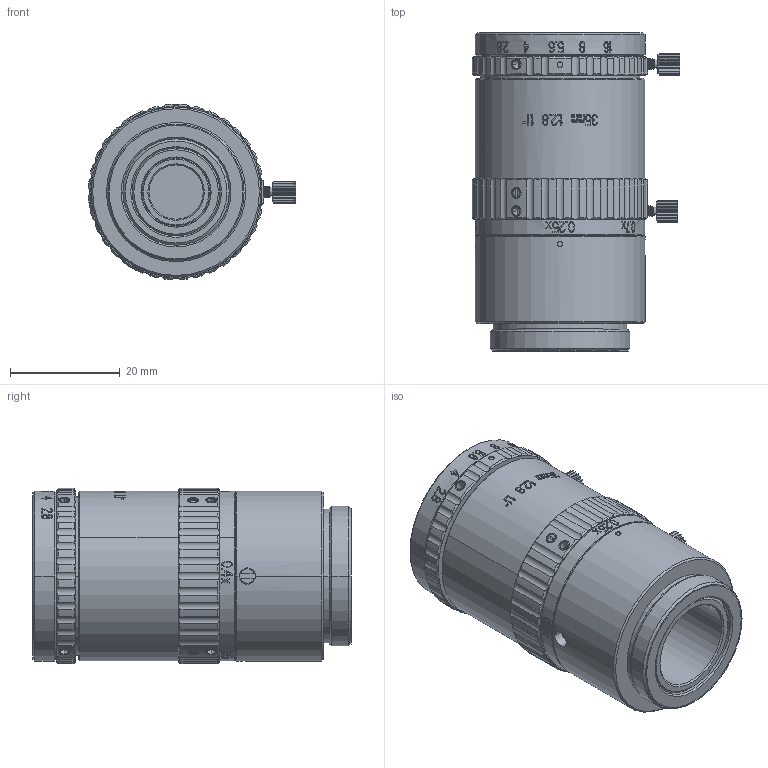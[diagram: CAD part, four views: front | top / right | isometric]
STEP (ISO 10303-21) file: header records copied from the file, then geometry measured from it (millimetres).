
FILE_DESCRIPTION((''),'2;1');
FILE_NAME('ML3510A-200A_ASM','2023-12-11T15:53:08',('user'),(''),'CREO PARAMETRIC BY PTC INC, 2022073','CREO PARAMETRIC BY PTC INC, 2022073','');
FILE_SCHEMA(('CONFIG_CONTROL_DESIGN'));
Products named in the file (44): 505_AF0; 502_AF0; MA090-02-01_1_AF0; MA090-02-02_1_AF0; MB1850-02-03________1_AF0; MB1850-02-03________1_AF1; MA090-01-01_ASM_1_AF0_ASM; MA090-02-03_1_AF0; MA090-02-04_1_AF0; 203_ASM_1_AF0_ASM; 203_ASM_AF0_ASM; 601_AF0; 513_AF0; 306_AF0; 514_AF0; JD20202001-01_AF0; JD20202001-01_AF1; 551_AF0; 202_AF0_ASM; 501_AF0; 303_AF0; 302_AF0; 512_AF0; 301_AF0; 511_AF0; 201_AF0_ASM; 503_AF0; 515; 507_AF0; 506_AF0; 504_AF0; 508_AF0; ML3510A-531; JD20202001-01_AF2; JD20202001-01_AF3; JD20202001-01_AF4; 541_AF0; 541_AF1; 521_AF0; 521_AF1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
Assembly tree (44 placements, depth 6):
  ML3510A-200A_ASM
    505_AF0
    202_AF0_ASM
      502_AF0
      203_ASM_AF0_ASM
        203_ASM_1_AF0_ASM
          MA090-02-01_1_AF0
          MA090-01-01_ASM_1_AF0_ASM
            MA090-02-02_1_AF0
            MB1850-02-03________1_AF0
            MB1850-02-03________1_AF1
          MA090-02-03_1_AF0
          MA090-02-04_1_AF0
      601_AF0
      513_AF0
      306_AF0
      514_AF0
      JD20202001-01_AF0
      JD20202001-01_AF1
      551_AF0
    201_AF0_ASM
      501_AF0
      303_AF0
      302_AF0
      512_AF0
      301_AF0
      511_AF0
    503_AF0
    515
    507_AF0
    506_AF0
    504_AF0
    508_AF0
    ML3510A-531  x2
    JD20202001-01_AF2
    JD20202001-01_AF3
    JD20202001-01_AF4
    541_AF0
    541_AF1
    521_AF0
    521_AF1
    521_AF2
    541_AF2
    541_AF3
Bounding box: 37.78 x 58 x 31.98 mm (x, y, z)
Volume: 14990.5 mm3; surface area: 30950 mm2
Topology: 29 solids, 58 shells, 2272 faces, 6043 edges, 3902 vertices
Faces by surface type: bspline 825, plane 571, cylinder 548, cone 300, torus 28
Entity records: 93744 total; most frequent: CARTESIAN_POINT 44149, ORIENTED_EDGE 11408, DIRECTION 7962, EDGE_CURVE 5762, VERTEX_POINT 3754, AXIS2_PLACEMENT_3D 2836, EDGE_LOOP 2336, VECTOR 2290
